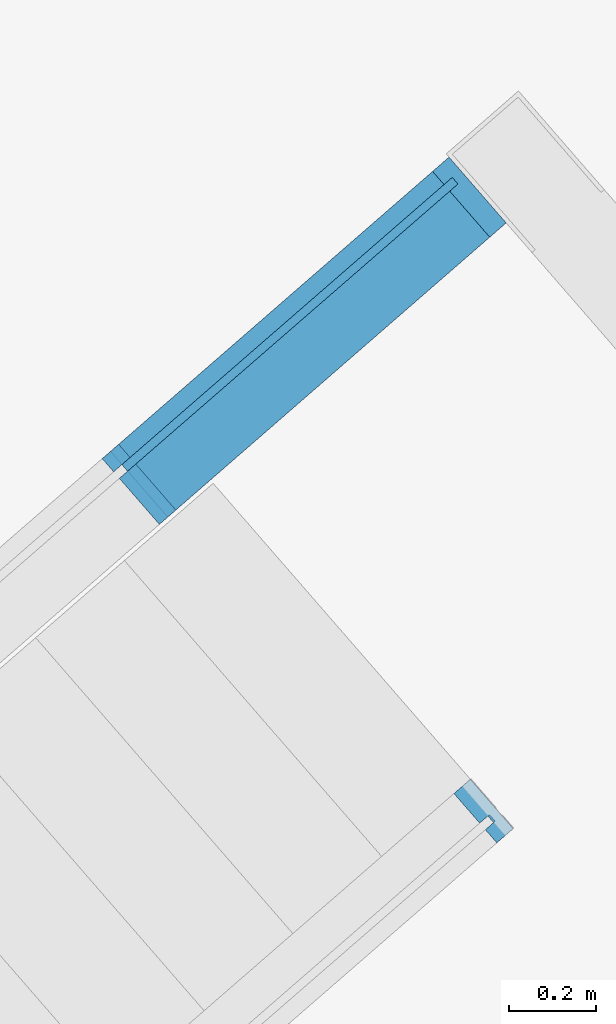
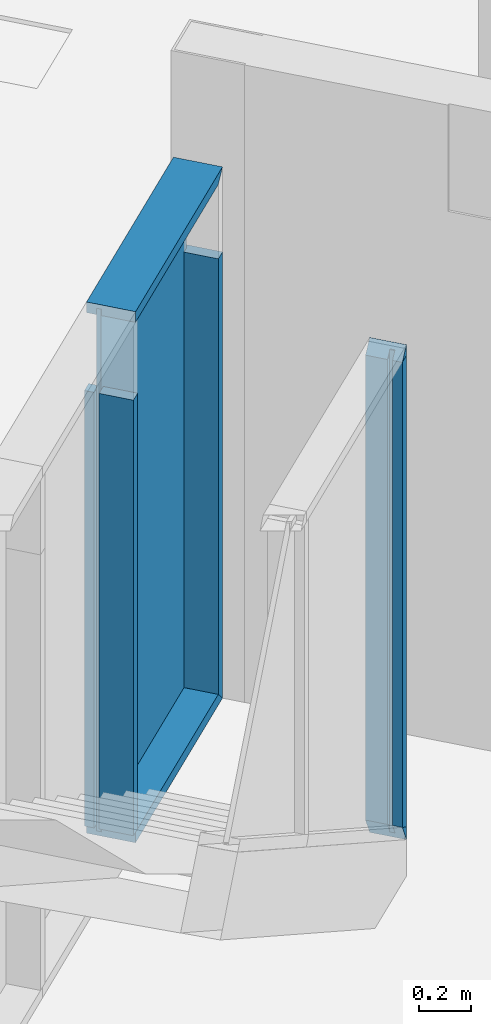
# One storey, part 10 of 124: 8 discrete accessories, 2 elements without a shape of their own.
"""IFC2X3 building model written with IfcOpenShell, lengths in millimetres."""

from ifc_helpers import new_model, entity, si_unit, converted_unit, derived_unit, money_unit, direction, frame, origin_with_axes, place, context, subcontext, project, spatial, polyline, outline, extrude, clip, halfspace, material, material_list, type_object, element, aggregate, save


model = new_model("IFC2X3")

# Units and contexts
model_context = context("Model", 3, precision=1e-05, world=origin_with_axes(), true_north=direction((0.0, 1.0)))
body_context = subcontext(model_context, "Body", "Model", "MODEL_VIEW")
ifc_project = project(units=[si_unit("LENGTHUNIT", "METRE", prefix="MILLI"), si_unit("AREAUNIT", "SQUARE_METRE"), si_unit("VOLUMEUNIT", "CUBIC_METRE"), converted_unit("PLANEANGLEUNIT", "DEGREE", entity("IfcPlaneAngleMeasure", 0.0174532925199), si_unit("PLANEANGLEUNIT", "RADIAN"), dimensions=[0, 0, 0, 0, 0, 0, 0]), si_unit("SOLIDANGLEUNIT", "STERADIAN"), money_unit("EUR"), converted_unit("TIMEUNIT", "Year", entity("IfcTimeMeasure", 31556926.0), si_unit("TIMEUNIT", "SECOND"), dimensions=[0, 0, 1, 0, 0, 0, 0]), si_unit("MASSUNIT", "GRAM", prefix="KILO"), si_unit("THERMODYNAMICTEMPERATUREUNIT", "DEGREE_CELSIUS"), si_unit("LUMINOUSINTENSITYUNIT", "LUMEN"), si_unit("ENERGYUNIT", "JOULE", prefix="MEGA"), derived_unit("THERMALCONDUCTANCEUNIT", [(si_unit("POWERUNIT", "WATT"), 1), (si_unit("LENGTHUNIT", "METRE"), -1), (si_unit("THERMODYNAMICTEMPERATUREUNIT", "KELVIN"), -1)]), derived_unit("SPECIFICHEATCAPACITYUNIT", [(si_unit("ENERGYUNIT", "JOULE"), 1), (si_unit("MASSUNIT", "GRAM", prefix="KILO"), -1), (si_unit("THERMODYNAMICTEMPERATUREUNIT", "KELVIN"), -1)]), derived_unit("MASSDENSITYUNIT", [(si_unit("MASSUNIT", "GRAM", prefix="KILO"), 1), (si_unit("VOLUMEUNIT", "CUBIC_METRE"), -1)])], contexts=[model_context])

# Site, building, storey
site_placement = place(None, origin_with_axes())
site = spatial("IfcSite", under=ifc_project, at=site_placement, Name="Site", CompositionType="ELEMENT")
building_placement = place(site_placement, origin_with_axes())
building = spatial("IfcBuilding", under=site, at=building_placement, Name="Building", CompositionType="ELEMENT")
storey_placement = place(building_placement, frame((0.0, 0.0, -1615.0), z_axis=(0.0, 0.0, 1.0), x_axis=(1.0, 0.0, 0.0)))
storey = spatial("IfcBuildingStorey", under=building, at=storey_placement, Name="0  korrus", CompositionType="ELEMENT", Elevation=-1615.0)

# Curtain wall, discrete accessories
curtain_wall_type_1 = type_object("IfcCurtainWallType", Name="KS-14", PredefinedType="NOTDEFINED")
curtain_wall_1_placement = place(storey_placement, frame((158378.483684, 89491.1525306, -3.95351700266e-05), z_axis=(0.0, 0.0, 1.0), x_axis=(1.0, 0.0, 0.0)))
curtain_wall_1 = element("IfcCurtainWall", 1, at=curtain_wall_1_placement, inside=storey, type_object=curtain_wall_type_1, Name="Klaas-sein")
ifc_material_1 = material(Name="Klaas")
discrete_accessory_type_1 = type_object("IfcDiscreteAccessoryType", Name="Distinct Panel 1010 x 380 x 20")
discrete_accessory_1_placement = place(curtain_wall_1_placement, frame((803.765702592, 698.702866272, 1533.33337045), z_axis=(0.0, 0.0, 1.0), x_axis=(0.754709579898, 0.656059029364, 0.0)))
discrete_accessory_1 = element("IfcDiscreteAccessory", 2, at=discrete_accessory_1_placement, type_object=discrete_accessory_type_1, material=ifc_material_1, Name="KS-14 klaaspakett", context=body_context, shape_type="SweptSolid", body=[
    extrude(outline(polyline([(-515.000007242, -946.666715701), (495.000014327, -946.666715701), (495.000014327, 1513.33338478), (-515.000007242, 1513.33338478), (-515.000007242, -946.666715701)])), frame((0.0, -10.0, 0.0), z_axis=(0.0, 1.0, 0.0), x_axis=(1.0, 0.0, 0.0)), (0.0, 0.0, 1.0), 20.0),
])
discrete_accessory_type_2 = type_object("IfcDiscreteAccessoryType", Name="50 x 200")
discrete_accessory_2_placement = place(curtain_wall_1_placement, frame((1192.44113624, 1036.57326639, 0.0), z_axis=(-0.754709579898, -0.656059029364, 0.0), x_axis=(0.0, 0.0, 1.0)))
discrete_accessory_2 = element("IfcDiscreteAccessory", 3, at=discrete_accessory_2_placement, type_object=discrete_accessory_type_2, Name="KS-14 profiil", context=body_context, shape_type="Clipping", body=[
    clip(extrude(outline(polyline([(-10.0, -25.0), (9.99999999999, -25.0), (9.99999999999, 0.0), (-10.0, 0.0), (-10.0, -25.0)])), frame((0.0, 0.0, 0.0), z_axis=(0.0, 0.0, 1.0), x_axis=(0.0, 1.0, 0.0)), (0.0, 0.0, 1.0), 1030.0), halfspace(frame((0.0, 0.0, 0.0), z_axis=(-0.707106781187, 0.0, 0.707106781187), x_axis=(0.0, -1.0, 0.0)), True)),
    clip(extrude(outline(polyline([(-150.0, -50.0), (-10.0, -50.0), (-10.0, 0.0), (-150.0, 0.0), (-150.0, -50.0)])), frame((0.0, 0.0, 0.0), z_axis=(0.0, 0.0, 1.0), x_axis=(0.0, 1.0, 0.0)), (0.0, 0.0, 1.0), 1030.0), halfspace(frame((0.0, 0.0, 0.0), z_axis=(-0.707106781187, 0.0, 0.707106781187), x_axis=(0.0, -1.0, 0.0)), True)),
    clip(extrude(outline(polyline([(50.0, 0.0), (9.99999999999, 0.0), (9.99999999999, -50.0), (50.0, -50.0), (50.0, 0.0)])), frame((0.0, 0.0, 0.0), z_axis=(0.0, 0.0, 1.0), x_axis=(0.0, 1.0, 0.0)), (0.0, 0.0, 1.0), 1030.0), halfspace(frame((0.0, 0.0, 0.0), z_axis=(-0.707106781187, 0.0, 0.707106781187), x_axis=(0.0, -1.0, 0.0)), True)),
])
discrete_accessory_3_placement = place(curtain_wall_1_placement, frame((1192.44113624, 1036.57326639, 0.0), z_axis=(0.0, 0.0, 1.0), x_axis=(0.754709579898, 0.656059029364, 0.0)))
discrete_accessory_3 = element("IfcDiscreteAccessory", 4, at=discrete_accessory_3_placement, type_object=discrete_accessory_type_2, Name="KS-14 profiil", context=body_context, shape_type="Clipping", body=[
    clip(extrude(outline(polyline([(-12.3071492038, -23.9485715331), (6.56059029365, -7.54709579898), (-6.56059029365, 7.54709579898), (-25.4283297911, -8.85437993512), (-12.3071492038, -23.9485715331)])), frame((0.0, 0.0, 0.0), z_axis=(0.0, 0.0, 1.0), x_axis=(0.754709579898, -0.656059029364, 0.0)), (0.0, 0.0, 1.0), 2100.00003954), halfspace(frame((0.0, 0.0, 0.0), z_axis=(0.707106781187, 0.0, 0.707106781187), x_axis=(0.0, -1.0, 0.0)), True)),
    clip(extrude(outline(polyline([(60.6733754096, -146.009388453), (98.4088544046, -113.206436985), (6.56059029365, -7.54709579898), (-31.1748887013, -40.3500472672), (60.6733754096, -146.009388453)])), frame((0.0, 0.0, 0.0), z_axis=(0.0, 0.0, 1.0), x_axis=(0.754709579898, -0.656059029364, 0.0)), (0.0, 0.0, 1.0), 2100.00003954), halfspace(frame((0.0, 0.0, 0.0), z_axis=(0.707106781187, 0.0, 0.707106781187), x_axis=(0.0, -1.0, 0.0)), True)),
    clip(extrude(outline(polyline([(-32.8029514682, 37.7354789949), (-70.5384304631, 4.93252752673), (-44.2960692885, -25.2558556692), (-6.56059029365, 7.54709579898), (-32.8029514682, 37.7354789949)])), frame((0.0, 0.0, 0.0), z_axis=(0.0, 0.0, 1.0), x_axis=(0.754709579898, -0.656059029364, 0.0)), (0.0, 0.0, 1.0), 2100.00003954), halfspace(frame((0.0, 0.0, 0.0), z_axis=(0.707106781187, 0.0, 0.707106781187), x_axis=(0.0, -1.0, 0.0)), True)),
])
discrete_accessory_4_placement = place(curtain_wall_1_placement, frame((415.090268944, 360.83246615, 2500.00007183), z_axis=(0.754709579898, 0.656059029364, 0.0), x_axis=(0.0, 0.0, -1.0)))
discrete_accessory_4 = element("IfcDiscreteAccessory", 5, at=discrete_accessory_4_placement, type_object=discrete_accessory_type_2, Name="KS-14 profiil", context=body_context, shape_type="Clipping", body=[
    clip(extrude(outline(polyline([(9.99999999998, 25.0), (-10.0, 25.0), (-10.0, 0.0), (10.0, 0.0), (9.99999999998, 25.0)])), frame((0.0, 0.0, 0.0), z_axis=(0.0, 0.0, 1.0), x_axis=(0.0, -1.0, 0.0)), (0.0, 0.0, 1.0), 1030.0), halfspace(frame((515.0, 0.0, 515.0), z_axis=(-0.707106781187, 0.0, -0.707106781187), x_axis=(0.0, 1.0, 0.0)), True)),
    clip(extrude(outline(polyline([(150.0, 50.0), (9.99999999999, 50.0), (10.0, 0.0), (150.0, 0.0), (150.0, 50.0)])), frame((0.0, 0.0, 0.0), z_axis=(0.0, 0.0, 1.0), x_axis=(0.0, -1.0, 0.0)), (0.0, 0.0, 1.0), 1030.0), halfspace(frame((515.0, 0.0, 515.0), z_axis=(-0.707106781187, 0.0, -0.707106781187), x_axis=(0.0, 1.0, 0.0)), True)),
    clip(extrude(outline(polyline([(-50.0, 0.0), (-10.0, 0.0), (-10.0, 50.0), (-50.0, 50.0), (-50.0, 0.0)])), frame((0.0, 0.0, 0.0), z_axis=(0.0, 0.0, 1.0), x_axis=(0.0, -1.0, 0.0)), (0.0, 0.0, 1.0), 1030.0), halfspace(frame((515.0, 0.0, 515.0), z_axis=(-0.707106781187, 0.0, -0.707106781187), x_axis=(0.0, 1.0, 0.0)), True)),
])
ifc_material_2 = material(Name="Aluminium MUST")
ifc_material_list = material_list([ifc_material_2, ifc_material_2])
discrete_accessory_5_placement = place(curtain_wall_1_placement, frame((415.090268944, 360.83246615, 0.0), z_axis=(0.0, 0.0, 1.0), x_axis=(0.754709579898, 0.656059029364, 0.0)))
discrete_accessory_5 = element("IfcDiscreteAccessory", 6, at=discrete_accessory_5_placement, type_object=discrete_accessory_type_2, material=ifc_material_list, Name="KS-14 profiil", context=body_context, shape_type="SweptSolid", body=[
    extrude(outline(polyline([(-12.3071492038, -23.9485715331), (79.5411149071, -129.607912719), (117.276593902, -96.8049612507), (25.4283297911, 8.85437993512), (-12.3071492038, -23.9485715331)])), frame((0.0, 0.0, 50.0), z_axis=(0.0, 0.0, 1.0), x_axis=(0.754709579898, -0.656059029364, 0.0)), (0.0, 0.0, 1.0), 2050.00003954),
    extrude(outline(polyline([(-25.4283297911, -8.85437993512), (12.3071492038, 23.9485715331), (-13.9352119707, 54.136954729), (-51.6706909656, 21.3340032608), (-25.4283297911, -8.85437993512)])), frame((0.0, 0.0, 50.0), z_axis=(0.0, 0.0, 1.0), x_axis=(0.754709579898, -0.656059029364, 0.0)), (0.0, 0.0, 1.0), 2050.00003954),
])
aggregate(curtain_wall_1, [discrete_accessory_1, discrete_accessory_2, discrete_accessory_3, discrete_accessory_4, discrete_accessory_5])

curtain_wall_type_2 = type_object("IfcCurtainWallType", Name="KS-21", PredefinedType="NOTDEFINED")
curtain_wall_2_placement = place(storey_placement, frame((156960.91707, 86721.8655907, 170.75), z_axis=(0.0, 0.0, 1.0), x_axis=(1.0, 0.0, 0.0)))
curtain_wall_2 = element("IfcCurtainWall", 7, at=curtain_wall_2_placement, inside=storey, type_object=curtain_wall_type_2, Name="Klaas-sein")
discrete_accessory_type_3 = type_object("IfcDiscreteAccessoryType", Name="Distinct Panel 5 x 2270 x 20")
discrete_accessory_6_placement = place(curtain_wall_2_placement, frame((2682.36373126, 2331.74321926, 1168.58093729), z_axis=(0.0, 0.0, 1.0), x_axis=(-0.75470957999, -0.656059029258, 0.0)))
discrete_accessory_6 = element("IfcDiscreteAccessory", 8, at=discrete_accessory_6_placement, type_object=discrete_accessory_type_3, material=ifc_material_1, Name="KS-21 klaaspakett", context=body_context, shape_type="SweptSolid", body=[
    extrude(outline(polyline([(7.49998290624, -1140.66906716), (12.4999875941, -1140.66906716), (12.4999875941, 1129.08765895), (7.49998290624, 1132.25241157), (7.49998290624, -1140.66906716)])), frame((0.0, -10.0, 0.0), z_axis=(0.0, 1.0, 0.0), x_axis=(1.0, 0.0, 0.0)), (0.0, 0.0, 1.0), 20.0),
])
discrete_accessory_type_4 = type_object("IfcDiscreteAccessoryType", Name="50 x 150")
discrete_accessory_7_placement = place(curtain_wall_2_placement, frame((2691.79759463, 2339.94395157, 2.768386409e-05), z_axis=(-2.55503146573e-09, -2.22106036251e-09, 1.0), x_axis=(-0.75470957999, -0.656059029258, -3.38545342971e-09)))
discrete_accessory_7 = element("IfcDiscreteAccessory", 9, at=discrete_accessory_7_placement, type_object=discrete_accessory_type_4, material=ifc_material_2, Name="KS-21 profiil", context=body_context, shape_type="Clipping", body=[
    clip(clip(extrude(outline(polyline([(-25.4283297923, -8.85437993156), (-12.3071492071, -23.9485715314), (-31.1748887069, -40.3500472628), (-4.9325275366, -70.5384304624), (32.8029514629, -37.7354789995), (-65.6059029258, 75.470957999), (-103.341381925, 42.6680065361), (-44.2960692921, -25.255855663), (-25.4283297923, -8.85437993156)])), frame((0.0, 0.0, 0.0), z_axis=(0.0, 0.0, 1.0), x_axis=(-0.75470957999, 0.656059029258, -2.55503146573e-09)), (0.0, 0.0, 1.0), 2329.24998482), halfspace(frame((1164.62499241, -2.14253153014e-10, 1164.62549524), z_axis=(-0.70710662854, 0.0, -0.707106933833), x_axis=(0.0, 1.0, 0.0)), True)), halfspace(frame((0.0, 0.0, 0.0), z_axis=(-0.876019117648, 0.0, 0.482276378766), x_axis=(0.0, -1.0, 0.0)), True)),
])
discrete_accessory_8_placement = place(curtain_wall_2_placement, frame((2672.92987088, 2323.54248953, 15.8236857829), z_axis=(0.0, 0.0, 1.0), x_axis=(-0.75470957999, -0.656059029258, 0.0)))
discrete_accessory_8 = element("IfcDiscreteAccessory", 10, at=discrete_accessory_8_placement, type_object=discrete_accessory_type_4, material=ifc_material_list, Name="KS-21 profiil", context=body_context, shape_type="Clipping", body=[
    clip(extrude(outline(polyline([(-84.4736424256, 59.0694822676), (-25.4283297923, -8.85437993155), (12.3071492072, 23.9485715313), (-46.7381634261, 91.8724337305), (-84.4736424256, 59.0694822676)])), frame((0.0, 0.0, 43.3502612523), z_axis=(0.0, 0.0, 1.0), x_axis=(-0.75470957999, 0.656059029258, 0.0)), (0.0, 0.0, 1.0), 2220.07607617), halfspace(frame((-26.7409493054, 0.0, 42.2483328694), z_axis=(-0.534818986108, 0.0, 0.844966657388), x_axis=(0.0, -1.0, 0.0)), True)),
    clip(extrude(outline(polyline([(51.6706909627, -21.3340032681), (25.4283297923, 8.85437993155), (-12.3071492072, -23.9485715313), (13.9352119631, -54.136954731), (51.6706909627, -21.3340032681)])), frame((0.0, 0.0, 43.3502612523), z_axis=(0.0, 0.0, 1.0), x_axis=(-0.75470957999, 0.656059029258, 0.0)), (0.0, 0.0, 1.0), 2220.07607617), halfspace(frame((-26.7409493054, 0.0, 42.2483328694), z_axis=(-0.534818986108, 0.0, 0.844966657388), x_axis=(0.0, -1.0, 0.0)), True)),
])
aggregate(curtain_wall_2, [discrete_accessory_6, discrete_accessory_7, discrete_accessory_8])

save(model, "model.ifc")
